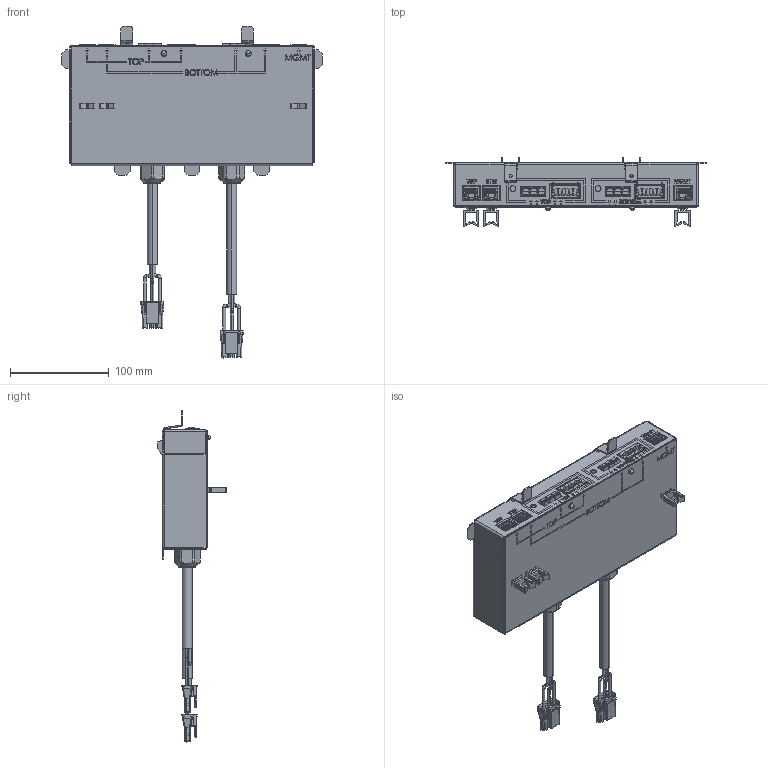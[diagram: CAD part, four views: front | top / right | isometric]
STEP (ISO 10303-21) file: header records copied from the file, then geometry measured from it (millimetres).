
FILE_DESCRIPTION (( 'STEP AP214' ), '1' );
FILE_NAME ('07-000706 OPEN RACK V2 PDU REV10.STEP', '2015-02-13T18:05:42', ( 'Windows User' ), ( 'Facebook, Inc.' ), 'SwSTEP 2.0', 'SolidWorks 2014', '' );
FILE_SCHEMA (( 'AUTOMOTIVE_DESIGN' ));
Length unit declared in the file: millimetre
Products named in the file (13): PWB OR2 DC PDU3; S OR2 BBU SPRING LATCH; S OR2 AC INPUT PLATE 3 BASE_dc version; 07-000706 OPEN RACK V2 PDU REV10; LED 5MM STRAIGHT TH GREEN; heyco-m4812-m4813 SM; C 6P CBL SABRE MOLEX 444412003b; longcable; X CABLE CLIP 9MM RICHCO WS-2; PWA OR2 DC PDU 3; C RA PCB 3X1 POLE GREEN-BLACK-RAD POWER POLE; CON 3P RA MOLEX 431603103; C RJ45 SINGLE RA SHIELD LATCH UP
Assembly tree (23 placements, depth 3):
  07-000706 OPEN RACK V2 PDU REV10
    S OR2 AC INPUT PLATE 3 BASE_dc version
    S OR2 BBU SPRING LATCH  x2
    PWA OR2 DC PDU 3
      PWB OR2 DC PDU3
      C RJ45 SINGLE RA SHIELD LATCH UP  x3
      CON 3P RA MOLEX 431603103  x2
      C RA PCB 3X1 POLE GREEN-BLACK-RAD POWER POLE  x2
    X CABLE CLIP 9MM RICHCO WS-2  x3
    longcable  x2
    C 6P CBL SABRE MOLEX 444412003b  x2
    heyco-m4812-m4813 SM  x2
    LED 5MM STRAIGHT TH GREEN  x2
Bounding box: 263.6 x 69.69 x 335.43 mm (x, y, z)
Volume: 95420.2 mm3; surface area: 295813 mm2
Topology: 29 solids, 542 shells, 5858 faces, 19209 edges, 14042 vertices
Faces by surface type: plane 3749, cylinder 1439, bspline 494, cone 128, torus 44, sphere 4
Entity records: 128908 total; most frequent: CARTESIAN_POINT 40982, ORIENTED_EDGE 15537, DIRECTION 13784, EDGE_CURVE 9141, VERTEX_POINT 6811, VECTOR 6700, LINE 6700, AXIS2_PLACEMENT_3D 3542
